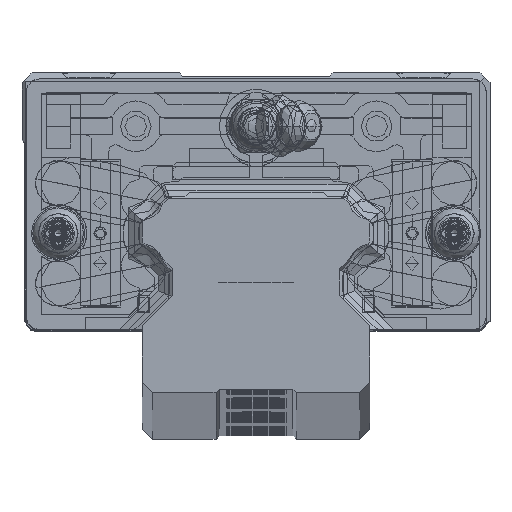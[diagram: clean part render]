
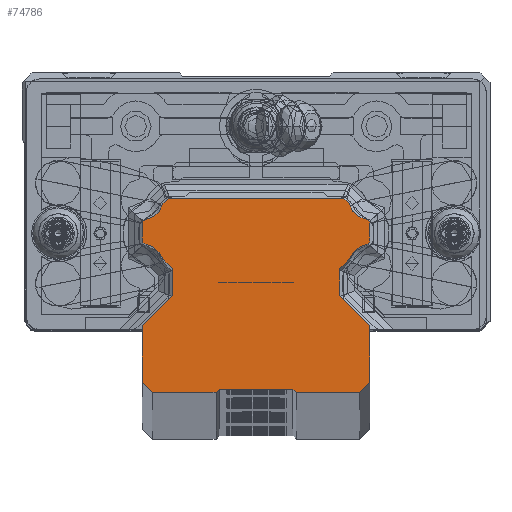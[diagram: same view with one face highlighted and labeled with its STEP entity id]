
A CAD part, top view. The second image highlights one B-rep face of the part: STEP entity #74786.
In plain terms, the highlighted planar face has unit normal (0, 0, 1).
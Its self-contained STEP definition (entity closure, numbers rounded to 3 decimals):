
#68733=DIRECTION('',(0.,-1.,0.));
#68734=VECTOR('',#68733,4.);
#68735=CARTESIAN_POINT('',(-12.5,-5.5,500.));
#68736=LINE('',#68735,#68734);
#68745=DIRECTION('',(0.,-1.,0.));
#68746=VECTOR('',#68745,8.5);
#68747=CARTESIAN_POINT('',(-17.,-14.,500.));
#68748=LINE('',#68747,#68746);
#68757=DIRECTION('',(1.,0.,0.));
#68758=VECTOR('',#68757,9.5);
#68759=CARTESIAN_POINT('',(-15.5,-24.,500.));
#68760=LINE('',#68759,#68758);
#70257=DIRECTION('',(0.,-1.,0.));
#70258=VECTOR('',#70257,2.452);
#70259=CARTESIAN_POINT('',(-17.,1.226,500.));
#70260=LINE('',#70259,#70258);
#70393=DIRECTION('',(1.,0.,0.));
#70394=VECTOR('',#70393,9.5);
#70395=CARTESIAN_POINT('',(6.,-24.,500.));
#70396=LINE('',#70395,#70394);
#70405=DIRECTION('',(0.,1.,0.));
#70406=VECTOR('',#70405,8.5);
#70407=CARTESIAN_POINT('',(17.,-22.5,500.));
#70408=LINE('',#70407,#70406);
#70417=DIRECTION('',(0.,1.,0.));
#70418=VECTOR('',#70417,4.);
#70419=CARTESIAN_POINT('',(12.5,-9.5,500.));
#70420=LINE('',#70419,#70418);
#70437=DIRECTION('',(0.,1.,0.));
#70438=VECTOR('',#70437,2.452);
#70439=CARTESIAN_POINT('',(17.,-1.226,500.));
#70440=LINE('',#70439,#70438);
#70453=CARTESIAN_POINT('',(-17.018,-5.018,500.));
#70454=DIRECTION('',(0.,0.,1.));
#70455=DIRECTION('',(0.951,0.31,0.));
#70456=AXIS2_PLACEMENT_3D('',#70453,#70454,#70455);
#70458=CARTESIAN_POINT('',(-16.35,-1.226,500.));
#70459=DIRECTION('',(0.,0.,-1.));
#70460=DIRECTION('',(-0.173,-0.985,0.));
#70461=AXIS2_PLACEMENT_3D('',#70458,#70459,#70460);
#70463=CARTESIAN_POINT('',(-16.35,1.226,500.));
#70464=DIRECTION('',(0.,0.,-1.));
#70465=DIRECTION('',(-1.,0.,0.));
#70466=AXIS2_PLACEMENT_3D('',#70463,#70464,#70465);
#70468=CARTESIAN_POINT('',(-17.018,5.018,500.));
#70469=DIRECTION('',(0.,0.,1.));
#70470=DIRECTION('',(0.173,-0.985,0.));
#70471=AXIS2_PLACEMENT_3D('',#70468,#70469,#70470);
#70473=DIRECTION('',(0.707,0.707,0.));
#70474=VECTOR('',#70473,1.158);
#70475=CARTESIAN_POINT('',(-13.929,4.181,500.));
#70476=LINE('',#70475,#70474);
#70477=DIRECTION('',(1.,0.,0.));
#70478=VECTOR('',#70477,26.22);
#70479=CARTESIAN_POINT('',(-13.11,5.,500.));
#70480=LINE('',#70479,#70478);
#70481=DIRECTION('',(0.707,-0.707,0.));
#70482=VECTOR('',#70481,1.158);
#70483=CARTESIAN_POINT('',(13.11,5.,500.));
#70484=LINE('',#70483,#70482);
#70485=CARTESIAN_POINT('',(17.018,5.018,500.));
#70486=DIRECTION('',(0.,0.,1.));
#70487=DIRECTION('',(-0.965,-0.261,0.));
#70488=AXIS2_PLACEMENT_3D('',#70485,#70486,#70487);
#70490=CARTESIAN_POINT('',(16.35,1.226,500.));
#70491=DIRECTION('',(0.,0.,-1.));
#70492=DIRECTION('',(0.173,0.985,0.));
#70493=AXIS2_PLACEMENT_3D('',#70490,#70491,#70492);
#70495=CARTESIAN_POINT('',(16.35,-1.226,500.));
#70496=DIRECTION('',(0.,0.,-1.));
#70497=DIRECTION('',(1.,0.,0.));
#70498=AXIS2_PLACEMENT_3D('',#70495,#70496,#70497);
#70500=CARTESIAN_POINT('',(17.018,-5.018,500.));
#70501=DIRECTION('',(0.,0.,1.));
#70502=DIRECTION('',(-0.173,0.985,0.));
#70503=AXIS2_PLACEMENT_3D('',#70500,#70501,#70502);
#70505=DIRECTION('',(-0.707,-0.707,0.));
#70506=VECTOR('',#70505,2.087);
#70507=CARTESIAN_POINT('',(13.976,-4.024,500.));
#70508=LINE('',#70507,#70506);
#70509=DIRECTION('',(0.707,-0.707,0.));
#70510=VECTOR('',#70509,6.364);
#70511=CARTESIAN_POINT('',(12.5,-9.5,500.));
#70512=LINE('',#70511,#70510);
#70513=DIRECTION('',(-0.707,-0.707,0.));
#70514=VECTOR('',#70513,2.121);
#70515=CARTESIAN_POINT('',(17.,-22.5,500.));
#70516=LINE('',#70515,#70514);
#70517=DIRECTION('',(-0.707,0.707,0.));
#70518=VECTOR('',#70517,0.707);
#70519=CARTESIAN_POINT('',(6.,-24.,500.));
#70520=LINE('',#70519,#70518);
#70521=DIRECTION('',(-1.,0.,0.));
#70522=VECTOR('',#70521,11.);
#70523=CARTESIAN_POINT('',(5.5,-23.5,500.));
#70524=LINE('',#70523,#70522);
#70525=DIRECTION('',(-0.707,-0.707,0.));
#70526=VECTOR('',#70525,0.707);
#70527=CARTESIAN_POINT('',(-5.5,-23.5,500.));
#70528=LINE('',#70527,#70526);
#70529=DIRECTION('',(-0.707,0.707,0.));
#70530=VECTOR('',#70529,2.121);
#70531=CARTESIAN_POINT('',(-15.5,-24.,500.));
#70532=LINE('',#70531,#70530);
#70533=DIRECTION('',(0.707,0.707,0.));
#70534=VECTOR('',#70533,6.364);
#70535=CARTESIAN_POINT('',(-17.,-14.,500.));
#70536=LINE('',#70535,#70534);
#70537=DIRECTION('',(-0.707,0.707,0.));
#70538=VECTOR('',#70537,2.087);
#70539=CARTESIAN_POINT('',(-12.5,-5.5,500.));
#70540=LINE('',#70539,#70538);
#71873=CARTESIAN_POINT('',(-13.976,-4.024,500.));
#71874=CARTESIAN_POINT('',(-16.463,-1.866,500.));
#71875=VERTEX_POINT('',#71873);
#71876=VERTEX_POINT('',#71874);
#71877=CARTESIAN_POINT('',(-17.,-1.226,500.));
#71878=VERTEX_POINT('',#71877);
#71879=CARTESIAN_POINT('',(-17.,1.226,500.));
#71880=VERTEX_POINT('',#71879);
#71881=CARTESIAN_POINT('',(-16.463,1.866,500.));
#71882=VERTEX_POINT('',#71881);
#71883=CARTESIAN_POINT('',(-13.929,4.181,500.));
#71884=VERTEX_POINT('',#71883);
#71885=CARTESIAN_POINT('',(-13.11,5.,500.));
#71886=VERTEX_POINT('',#71885);
#71887=CARTESIAN_POINT('',(13.11,5.,500.));
#71888=VERTEX_POINT('',#71887);
#71941=CARTESIAN_POINT('',(13.929,4.181,500.));
#71942=VERTEX_POINT('',#71941);
#71943=CARTESIAN_POINT('',(16.463,1.866,500.));
#71944=VERTEX_POINT('',#71943);
#71945=CARTESIAN_POINT('',(17.,1.226,500.));
#71946=VERTEX_POINT('',#71945);
#71947=CARTESIAN_POINT('',(17.,-1.226,500.));
#71948=VERTEX_POINT('',#71947);
#71949=CARTESIAN_POINT('',(16.463,-1.866,500.));
#71950=VERTEX_POINT('',#71949);
#71951=CARTESIAN_POINT('',(13.976,-4.024,500.));
#71952=VERTEX_POINT('',#71951);
#71953=CARTESIAN_POINT('',(12.5,-5.5,500.));
#71954=VERTEX_POINT('',#71953);
#71955=CARTESIAN_POINT('',(12.5,-9.5,500.));
#71956=VERTEX_POINT('',#71955);
#71957=CARTESIAN_POINT('',(17.,-14.,500.));
#71958=VERTEX_POINT('',#71957);
#71959=CARTESIAN_POINT('',(17.,-22.5,500.));
#71960=VERTEX_POINT('',#71959);
#71961=CARTESIAN_POINT('',(15.5,-24.,500.));
#71962=VERTEX_POINT('',#71961);
#71963=CARTESIAN_POINT('',(6.,-24.,500.));
#71964=VERTEX_POINT('',#71963);
#71965=CARTESIAN_POINT('',(5.5,-23.5,500.));
#71966=VERTEX_POINT('',#71965);
#71967=CARTESIAN_POINT('',(-5.5,-23.5,500.));
#71968=VERTEX_POINT('',#71967);
#72021=CARTESIAN_POINT('',(-6.,-24.,500.));
#72022=VERTEX_POINT('',#72021);
#72023=CARTESIAN_POINT('',(-15.5,-24.,500.));
#72024=VERTEX_POINT('',#72023);
#72025=CARTESIAN_POINT('',(-17.,-22.5,500.));
#72026=VERTEX_POINT('',#72025);
#72027=CARTESIAN_POINT('',(-17.,-14.,500.));
#72028=VERTEX_POINT('',#72027);
#72029=CARTESIAN_POINT('',(-12.5,-9.5,500.));
#72030=VERTEX_POINT('',#72029);
#72031=CARTESIAN_POINT('',(-12.5,-5.5,500.));
#72032=VERTEX_POINT('',#72031);
#74751=CARTESIAN_POINT('',(0.,0.,500.));
#74752=DIRECTION('',(0.,0.,1.));
#74753=DIRECTION('',(1.,0.,0.));
#74754=AXIS2_PLACEMENT_3D('',#74751,#74752,#74753);
#74755=PLANE('',#74754);
#74756=ORIENTED_EDGE('',*,*,#72796,.T.);
#74757=ORIENTED_EDGE('',*,*,#74516,.T.);
#74758=ORIENTED_EDGE('',*,*,#74502,.F.);
#74759=ORIENTED_EDGE('',*,*,#74487,.T.);
#74760=ORIENTED_EDGE('',*,*,#74472,.T.);
#74761=ORIENTED_EDGE('',*,*,#74457,.T.);
#74762=ORIENTED_EDGE('',*,*,#73291,.T.);
#74763=ORIENTED_EDGE('',*,*,#74746,.T.);
#74764=ORIENTED_EDGE('',*,*,#74733,.T.);
#74765=ORIENTED_EDGE('',*,*,#74719,.T.);
#74766=ORIENTED_EDGE('',*,*,#74705,.F.);
#74767=ORIENTED_EDGE('',*,*,#74691,.T.);
#74768=ORIENTED_EDGE('',*,*,#74677,.T.);
#74769=ORIENTED_EDGE('',*,*,#74663,.T.);
#74770=ORIENTED_EDGE('',*,*,#74649,.F.);
#74771=ORIENTED_EDGE('',*,*,#74635,.T.);
#74772=ORIENTED_EDGE('',*,*,#74621,.F.);
#74773=ORIENTED_EDGE('',*,*,#74607,.T.);
#74774=ORIENTED_EDGE('',*,*,#74593,.F.);
#74775=ORIENTED_EDGE('',*,*,#74579,.T.);
#74776=ORIENTED_EDGE('',*,*,#72916,.T.);
#74777=ORIENTED_EDGE('',*,*,#72901,.T.);
#74778=ORIENTED_EDGE('',*,*,#72886,.F.);
#74779=ORIENTED_EDGE('',*,*,#72871,.T.);
#74780=ORIENTED_EDGE('',*,*,#72856,.F.);
#74781=ORIENTED_EDGE('',*,*,#72841,.T.);
#74782=ORIENTED_EDGE('',*,*,#72826,.F.);
#74783=ORIENTED_EDGE('',*,*,#72811,.T.);
#74784=EDGE_LOOP('',(#74756,#74757,#74758,#74759,#74760,#74761,#74762,#74763,
#74764,#74765,#74766,#74767,#74768,#74769,#74770,#74771,#74772,#74773,#74774,
#74775,#74776,#74777,#74778,#74779,#74780,#74781,#74782,#74783));
#74785=FACE_OUTER_BOUND('',#74784,.F.);
#74786=ADVANCED_FACE('',(#74785),#74755,.T.);
#70457=CIRCLE('',#70456,3.2);
#70462=CIRCLE('',#70461,0.65);
#70467=CIRCLE('',#70466,0.65);
#70472=CIRCLE('',#70471,3.2);
#70489=CIRCLE('',#70488,3.2);
#70494=CIRCLE('',#70493,0.65);
#70499=CIRCLE('',#70498,0.65);
#70504=CIRCLE('',#70503,3.2);
#72796=EDGE_CURVE('',#71875,#71876,#70457,.T.);
#72811=EDGE_CURVE('',#72032,#71875,#70540,.T.);
#72826=EDGE_CURVE('',#72032,#72030,#68736,.T.);
#72841=EDGE_CURVE('',#72028,#72030,#70536,.T.);
#72856=EDGE_CURVE('',#72028,#72026,#68748,.T.);
#72871=EDGE_CURVE('',#72024,#72026,#70532,.T.);
#72886=EDGE_CURVE('',#72024,#72022,#68760,.T.);
#72901=EDGE_CURVE('',#71968,#72022,#70528,.T.);
#72916=EDGE_CURVE('',#71966,#71968,#70524,.T.);
#73291=EDGE_CURVE('',#71886,#71888,#70480,.T.);
#74457=EDGE_CURVE('',#71884,#71886,#70476,.T.);
#74472=EDGE_CURVE('',#71882,#71884,#70472,.T.);
#74487=EDGE_CURVE('',#71880,#71882,#70467,.T.);
#74502=EDGE_CURVE('',#71880,#71878,#70260,.T.);
#74516=EDGE_CURVE('',#71876,#71878,#70462,.T.);
#74579=EDGE_CURVE('',#71964,#71966,#70520,.T.);
#74593=EDGE_CURVE('',#71964,#71962,#70396,.T.);
#74607=EDGE_CURVE('',#71960,#71962,#70516,.T.);
#74621=EDGE_CURVE('',#71960,#71958,#70408,.T.);
#74635=EDGE_CURVE('',#71956,#71958,#70512,.T.);
#74649=EDGE_CURVE('',#71956,#71954,#70420,.T.);
#74663=EDGE_CURVE('',#71952,#71954,#70508,.T.);
#74677=EDGE_CURVE('',#71950,#71952,#70504,.T.);
#74691=EDGE_CURVE('',#71948,#71950,#70499,.T.);
#74705=EDGE_CURVE('',#71948,#71946,#70440,.T.);
#74719=EDGE_CURVE('',#71944,#71946,#70494,.T.);
#74733=EDGE_CURVE('',#71942,#71944,#70489,.T.);
#74746=EDGE_CURVE('',#71888,#71942,#70484,.T.);
